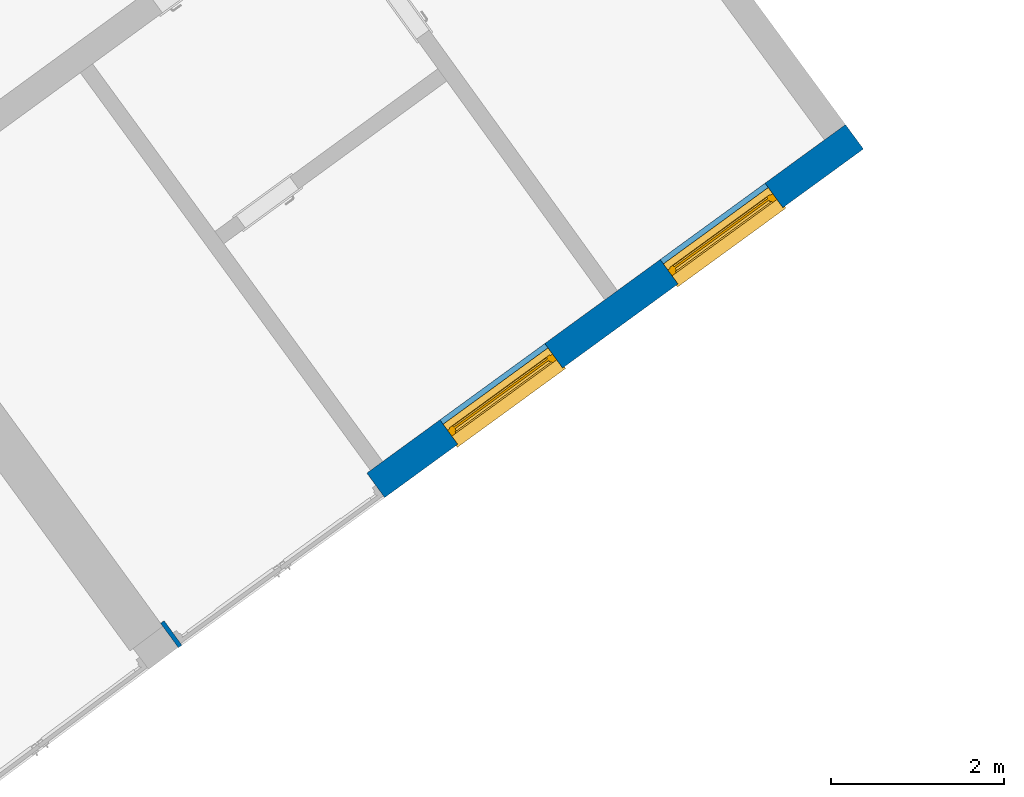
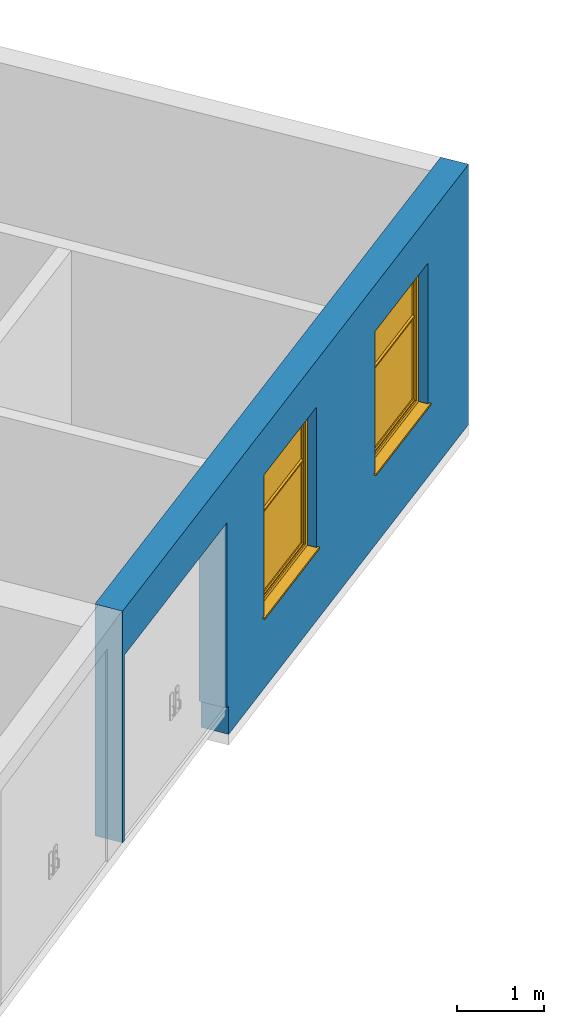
"""IFC2X3 building model written with IfcOpenShell, lengths in millimetres."""

import ifcopenshell
import ifcopenshell.guid

model = None  # the IFC model being written
_history = None  # IfcOwnerHistory: only IFC2X3 demands one
_inside = {}  # id of a spatial element -> (the spatial element, [elements in it])
_under = {}  # id of a project, library or spatial element -> (it, [spatial elements below it])
_declared = {}  # id of a project -> (the project, [libraries it declares])
_typed = {}  # id of a type object -> (the type object, [elements of that type])
_made_of = {}  # id of a material, layer set ... -> (it, [elements and type objects made of it])


def new_model(schema):
    """Start an empty IFC model of exactly this schema.

    Asked for "IFC4X3", IfcOpenShell would pick the latest addendum, in which some entities
    have other attributes; the version numbers below select the first issue.
    IFC2X3 requires an IfcOwnerHistory on every rooted entity: one is made here for all.
    """
    global model, _history
    if schema == "IFC4X3":
        model = ifcopenshell.file(schema_version=(4, 3, 0, 0))
    else:
        model = ifcopenshell.file(schema=schema)
    _inside.clear()
    _under.clear()
    _declared.clear()
    _typed.clear()
    _made_of.clear()
    _history = None
    if model.schema == "IFC2X3":
        org = make("IfcOrganization", Name="unknown")
        user = make(
            "IfcPersonAndOrganization",
            ThePerson=make("IfcPerson", FamilyName="unknown"),
            TheOrganization=org,
        )
        app = make(
            "IfcApplication",
            ApplicationDeveloper=org,
            Version="unknown",
            ApplicationFullName="unknown",
            ApplicationIdentifier="unknown",
        )
        _history = make(
            "IfcOwnerHistory",
            OwningUser=user,
            OwningApplication=app,
            ChangeAction="ADDED",
            CreationDate=0,
        )
    return model


def make(cls, **values):
    """One entity of the class cls with the attributes given. An attribute that is None is left unset."""
    return model.create_entity(
        cls, **{name: value for name, value in values.items() if value is not None}
    )


def entity(cls, *values):
    """Any entity or typed value of the class cls, its attributes in the order of the schema. None: left unset."""
    e = model.create_entity(cls)
    for i, value in enumerate(values):
        if value is not None:
            e[i] = value
    return e


def rooted(cls, **values):
    """An entity with a GlobalId (a new one), such as an element, a storey or a relation."""
    return make(cls, GlobalId=ifcopenshell.guid.new(), OwnerHistory=_history, **values)


def si_unit(unit_type, name, prefix=None):
    """IfcSIUnit, for example si_unit("LENGTHUNIT", "METRE", prefix="MILLI")."""
    return make("IfcSIUnit", UnitType=unit_type, Prefix=prefix, Name=name)


def converted_unit(unit_type, name, factor, base, dimensions=None, offset=None):
    """IfcConversionBasedUnit, such as the inch: factor (a typed value) times the base unit."""
    return make(
        "IfcConversionBasedUnit"
        if offset is None
        else "IfcConversionBasedUnitWithOffset",
        ConversionOffset=offset,
        Dimensions=None
        if dimensions is None
        else entity("IfcDimensionalExponents", *dimensions),
        UnitType=unit_type,
        Name=name,
        ConversionFactor=make(
            "IfcMeasureWithUnit", ValueComponent=factor, UnitComponent=base
        ),
    )


def derived_unit(unit_type, elements):
    """IfcDerivedUnit: a product of units, each with its exponent."""
    return make(
        "IfcDerivedUnit",
        Elements=[
            make("IfcDerivedUnitElement", Unit=unit, Exponent=power)
            for unit, power in elements
        ],
        UnitType=unit_type,
    )


def assignment(units):
    """IfcUnitAssignment: the units of a project."""
    return None if units is None else make("IfcUnitAssignment", Units=units)


def point(xyz):
    """IfcCartesianPoint."""
    return None if xyz is None else make("IfcCartesianPoint", Coordinates=xyz)


def direction(xyz):
    """IfcDirection."""
    return None if xyz is None else make("IfcDirection", DirectionRatios=xyz)


def frame(location, z_axis=None, x_axis=None):
    """IfcAxis2Placement3D, a coordinate frame: its origin and axes. An axis left out is left unset."""
    return make(
        "IfcAxis2Placement3D",
        Location=point(location),
        Axis=direction(z_axis),
        RefDirection=direction(x_axis),
    )


def frame_2d(location, x_axis=None):
    """IfcAxis2Placement2D, a coordinate frame in the plane: its origin and x axis."""
    return make(
        "IfcAxis2Placement2D", Location=point(location), RefDirection=direction(x_axis)
    )


def origin():
    """The frame at (0, 0, 0) with its axes left unset."""
    return frame((0.0, 0.0, 0.0))


def place(relative_to, where):
    """IfcLocalPlacement: puts the frame where relative to a parent placement (None: the world)."""
    return make(
        "IfcLocalPlacement", PlacementRelTo=relative_to, RelativePlacement=where
    )


def context(
    kind, dimensions, precision=None, world=None, true_north=None, identifier=None
):
    """IfcGeometricRepresentationContext, for example the 3D "Model" context."""
    return make(
        "IfcGeometricRepresentationContext",
        ContextIdentifier=identifier,
        ContextType=kind,
        CoordinateSpaceDimension=dimensions,
        Precision=precision,
        WorldCoordinateSystem=world,
        TrueNorth=true_north,
    )


def subcontext(parent, identifier, kind, view, scale=None):
    """IfcGeometricRepresentationSubContext, for example "Body" below "Model"."""
    return make(
        "IfcGeometricRepresentationSubContext",
        ContextIdentifier=identifier,
        ContextType=kind,
        ParentContext=parent,
        TargetScale=scale,
        TargetView=view,
    )


def project(units=None, contexts=None):
    """IfcProject with its units and contexts."""
    return rooted(
        "IfcProject",
        Name="project",
        RepresentationContexts=contexts,
        UnitsInContext=assignment(units),
    )


def spatial(cls, under=None, at=None, **own):
    """A site, building, storey or space (cls), placed at a placement, below another one or the project."""
    s = rooted(cls, ObjectPlacement=at, **own)
    if under is not None:
        _under.setdefault(under.id(), (under, []))[1].append(s)
    return s


def profile(cls, at=None, kind="AREA", **sizes):
    """A parametric profile (cls). Its sizes go by their IFC names, for example OverallWidth=200.0."""
    return make(cls, ProfileType=kind, Position=at, **sizes)


def rectangle(**sizes):
    """IfcRectangleProfileDef."""
    return profile("IfcRectangleProfileDef", **sizes)


def extrude(swept, where, along, depth):
    """IfcExtrudedAreaSolid: the profile swept, set in the frame where, extruded along a direction by depth."""
    return make(
        "IfcExtrudedAreaSolid",
        SweptArea=swept,
        Position=where,
        ExtrudedDirection=direction(along),
        Depth=depth,
    )


def faces_of(points, faces, orient=None, outer=None):
    """IfcFace entities. A face is a list of loops; a loop is a list of indices into points, from 0.

    orient and outer hold one flag for each loop. By default every Orientation is true, the
    first loop of a face is its IfcFaceOuterBound and the others are IfcFaceBound.
    """
    made = []
    for i, loops in enumerate(faces):
        bounds = []
        for j, loop in enumerate(loops):
            is_outer = j == 0 if outer is None else outer[i][j]
            bounds.append(
                make(
                    "IfcFaceOuterBound" if is_outer else "IfcFaceBound",
                    Bound=make("IfcPolyLoop", Polygon=[points[k] for k in loop]),
                    Orientation=True if orient is None else orient[i][j],
                )
            )
        made.append(make("IfcFace", Bounds=bounds))
    return made


def faceted_brep(points, faces, orient=None, outer=None, voids=None):
    """IfcFacetedBrep: a solid bounded by flat faces; with voids (closed shells), ...WithVoids."""
    shared = [point(p) for p in points]
    hull = make("IfcClosedShell", CfsFaces=faces_of(shared, faces, orient, outer))
    if voids is None:
        return make("IfcFacetedBrep", Outer=hull)
    return make(
        "IfcFacetedBrepWithVoids",
        Outer=hull,
        Voids=[
            make(cls, CfsFaces=faces_of(shared, fs, o, b)) for cls, fs, o, b in voids
        ],
    )


def shape(context_of_items, identifier, shape_type, items):
    """IfcShapeRepresentation: the items that make up one representation, for example the "Body"."""
    return make(
        "IfcShapeRepresentation",
        ContextOfItems=context_of_items,
        RepresentationIdentifier=identifier,
        RepresentationType=shape_type,
        Items=items,
    )


def source(mapping_origin, context_of_items, identifier, shape_type, items):
    """IfcRepresentationMap: a shape defined once, which mapped items show again and again."""
    return make(
        "IfcRepresentationMap",
        MappingOrigin=mapping_origin,
        MappedRepresentation=shape(context_of_items, identifier, shape_type, items),
    )


def transform(
    local_origin,
    x_axis=None,
    y_axis=None,
    z_axis=None,
    scale=None,
    scale2=None,
    scale3=None,
    uniform=True,
):
    """IfcCartesianTransformationOperator3D, or its non-uniform kind. x_axis, y_axis, z_axis: its Axis1, 2, 3."""
    if uniform:
        return make(
            "IfcCartesianTransformationOperator3D",
            Axis1=direction(x_axis),
            Axis2=direction(y_axis),
            LocalOrigin=point(local_origin),
            Scale=scale,
            Axis3=direction(z_axis),
        )
    return make(
        "IfcCartesianTransformationOperator3DnonUniform",
        Axis1=direction(x_axis),
        Axis2=direction(y_axis),
        LocalOrigin=point(local_origin),
        Scale=scale,
        Axis3=direction(z_axis),
        Scale2=scale2,
        Scale3=scale3,
    )


def mapped(mapping_source, mapping_target):
    """IfcMappedItem: shows the shape of a source again, moved by a transform."""
    return make(
        "IfcMappedItem", MappingSource=mapping_source, MappingTarget=mapping_target
    )


def material(Name=None, Category=None):
    """IfcMaterial."""
    return make("IfcMaterial", Name=Name, Category=Category)


def material_list(materials):
    """IfcMaterialList."""
    return make("IfcMaterialList", Materials=materials)


def layer(
    of_material, thickness, ventilated=None, Name=None, Category=None, Priority=None
):
    """IfcMaterialLayer: one layer of a wall or slab, of a material (None: an air gap)."""
    return make(
        "IfcMaterialLayer",
        Material=of_material,
        LayerThickness=thickness,
        IsVentilated=ventilated,
        Name=Name,
        Category=Category,
        Priority=Priority,
    )


def layer_set(layers, Name=None):
    """IfcMaterialLayerSet."""
    return make("IfcMaterialLayerSet", MaterialLayers=layers, LayerSetName=Name)


def made_of(thing, what):
    """Note that an element or type object is made of a material, layer set ...; save() writes the relation."""
    if what is not None:
        _made_of.setdefault(what.id(), (what, []))[1].append(thing)
    return thing


def type_object(cls, material=None, **own):
    """A type object (cls), such as IfcWallType, which elements share."""
    return made_of(rooted(cls, **own), material)


def type_shapes(of_type, sources):
    """Give a type object the sources (RepresentationMaps) that its elements show as mapped items."""
    of_type.RepresentationMaps = sources


def element(
    cls,
    number,
    at=None,
    inside=None,
    cuts=None,
    type_object=None,
    material=None,
    context=None,
    identifier="Body",
    shape_type=None,
    held_by="IfcProductDefinitionShape",
    body=None,
    shapes=None,
    **own,
):
    """One element of the class cls, such as IfcWall. Its Tag is "e" and its number.

    at: its placement. inside: the storey or other place that contains it. cuts: it is an
    opening in that element (IfcRelVoidsElement). A single representation is given by context,
    identifier, shape_type and body (its items); several are given by shapes. held_by: the class
    of the entity that holds the representations. save() writes the other relations.
    """
    e = rooted(cls, Tag="e%d" % number, ObjectPlacement=at, **own)
    if body is not None:
        shapes = [shape(context, identifier, shape_type, body)]
    if shapes is not None:
        e.Representation = make(held_by, Representations=shapes)
    if inside is not None:
        _inside.setdefault(inside.id(), (inside, []))[1].append(e)
    if cuts is not None:
        rooted(
            "IfcRelVoidsElement", RelatingBuildingElement=cuts, RelatedOpeningElement=e
        )
    if type_object is not None:
        _typed.setdefault(type_object.id(), (type_object, []))[1].append(e)
    return made_of(e, material)


def fill(opening, filler):
    """IfcRelFillsElement: the door or window that sits in an opening."""
    return rooted(
        "IfcRelFillsElement",
        RelatingOpeningElement=opening,
        RelatedBuildingElement=filler,
    )


def aggregate(whole, parts):
    """IfcRelAggregates: a whole, such as a stair, and the parts it consists of."""
    return rooted("IfcRelAggregates", RelatingObject=whole, RelatedObjects=parts)


def save(model, path):
    """Write the relations noted so far, then the file.

    IfcRelAggregates (storeys below a building ...), IfcRelContainedInSpatialStructure (elements
    in a storey), IfcRelDefinesByType, IfcRelAssociatesMaterial and IfcRelDeclares: one each for
    every whole, place, type object, material and project.
    """
    for whole, parts in _under.values():
        aggregate(whole, parts)
    for where, things in _inside.values():
        rooted(
            "IfcRelContainedInSpatialStructure",
            RelatedElements=things,
            RelatingStructure=where,
        )
    for kind, things in _typed.values():
        rooted("IfcRelDefinesByType", RelatedObjects=things, RelatingType=kind)
    for what, things in _made_of.values():
        rooted("IfcRelAssociatesMaterial", RelatedObjects=things, RelatingMaterial=what)
    for by, libraries in _declared.values():
        rooted("IfcRelDeclares", RelatingContext=by, RelatedDefinitions=libraries)
    model.write(path)


model = new_model("IFC2X3")

# Units and contexts
model_context = context("Model", 3, precision=0.01, world=origin(), true_north=direction((6.123031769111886e-17, 1.0)))
body_context = subcontext(model_context, "Body", "Model", "MODEL_VIEW")
ifc_project = project(units=[si_unit("LENGTHUNIT", "METRE", prefix="MILLI"), si_unit("AREAUNIT", "SQUARE_METRE"), si_unit("VOLUMEUNIT", "CUBIC_METRE"), converted_unit("PLANEANGLEUNIT", "DEGREE", entity("IfcRatioMeasure", 0.017453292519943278), si_unit("PLANEANGLEUNIT", "RADIAN"), dimensions=[0, 0, 0, 0, 0, 0, 0]), si_unit("MASSUNIT", "GRAM", prefix="KILO"), derived_unit("MASSDENSITYUNIT", [(si_unit("MASSUNIT", "GRAM", prefix="KILO"), 1), (si_unit("LENGTHUNIT", "METRE"), -3)]), derived_unit("MOMENTOFINERTIAUNIT", [(si_unit("LENGTHUNIT", "METRE"), 4)]), si_unit("TIMEUNIT", "SECOND"), si_unit("FREQUENCYUNIT", "HERTZ"), si_unit("THERMODYNAMICTEMPERATUREUNIT", "DEGREE_CELSIUS"), derived_unit("THERMALTRANSMITTANCEUNIT", [(si_unit("MASSUNIT", "GRAM", prefix="KILO"), 1), (si_unit("THERMODYNAMICTEMPERATUREUNIT", "KELVIN"), -1), (si_unit("TIMEUNIT", "SECOND"), -3)]), derived_unit("THERMALCONDUCTANCEUNIT", [(si_unit("MASSUNIT", "GRAM", prefix="KILO"), 1), (si_unit("LENGTHUNIT", "METRE"), 1), (si_unit("THERMODYNAMICTEMPERATUREUNIT", "KELVIN"), -1), (si_unit("TIMEUNIT", "SECOND"), -3)]), derived_unit("VOLUMETRICFLOWRATEUNIT", [(si_unit("LENGTHUNIT", "METRE"), 3), (si_unit("TIMEUNIT", "SECOND"), -1)]), derived_unit("MASSFLOWRATEUNIT", [(si_unit("MASSUNIT", "GRAM", prefix="KILO"), 1), (si_unit("TIMEUNIT", "SECOND"), -1)]), derived_unit("ROTATIONALFREQUENCYUNIT", [(si_unit("TIMEUNIT", "SECOND"), -1)]), si_unit("ELECTRICCURRENTUNIT", "AMPERE"), si_unit("ELECTRICVOLTAGEUNIT", "VOLT"), si_unit("POWERUNIT", "WATT"), converted_unit("FORCEUNIT", "KIP", entity("IfcRatioMeasure", 2.088543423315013e-05), si_unit("FORCEUNIT", "NEWTON"), dimensions=[1, 1, -2, 0, 0, 0, 0]), si_unit("ILLUMINANCEUNIT", "LUX"), si_unit("LUMINOUSFLUXUNIT", "LUMEN"), si_unit("LUMINOUSINTENSITYUNIT", "CANDELA"), derived_unit("USERDEFINED", [(si_unit("MASSUNIT", "GRAM", prefix="KILO"), -1), (si_unit("LENGTHUNIT", "METRE"), -2), (si_unit("TIMEUNIT", "SECOND"), 3), (si_unit("LUMINOUSFLUXUNIT", "LUMEN"), 1)]), derived_unit("USERDEFINED", [(si_unit("MASSUNIT", "GRAM", prefix="KILO"), 1), (si_unit("LENGTHUNIT", "METRE"), 3), (si_unit("TIMEUNIT", "SECOND"), -3), (si_unit("ELECTRICCURRENTUNIT", "AMPERE"), -2)]), derived_unit("USERDEFINED", [(si_unit("LENGTHUNIT", "METRE"), 2), (si_unit("TIMEUNIT", "SECOND"), -2)]), derived_unit("SOUNDPOWERUNIT", [(si_unit("MASSUNIT", "GRAM", prefix="KILO"), 1), (si_unit("LENGTHUNIT", "METRE"), 2), (si_unit("TIMEUNIT", "SECOND"), -3)]), derived_unit("SOUNDPRESSUREUNIT", [(si_unit("MASSUNIT", "GRAM", prefix="KILO"), 1), (si_unit("LENGTHUNIT", "METRE"), -1), (si_unit("TIMEUNIT", "SECOND"), -2)]), derived_unit("LINEARVELOCITYUNIT", [(si_unit("LENGTHUNIT", "METRE"), 1), (si_unit("TIMEUNIT", "SECOND"), -1)]), si_unit("PRESSUREUNIT", "PASCAL"), derived_unit("USERDEFINED", [(si_unit("LENGTHUNIT", "METRE"), -2), (si_unit("MASSUNIT", "GRAM", prefix="KILO"), 1), (si_unit("TIMEUNIT", "SECOND"), -2)]), derived_unit("LINEARFORCEUNIT", [(si_unit("MASSUNIT", "GRAM", prefix="KILO"), 1), (si_unit("LENGTHUNIT", "METRE"), 1), (si_unit("TIMEUNIT", "SECOND"), -2), (si_unit("LENGTHUNIT", "METRE"), -1)]), derived_unit("PLANARFORCEUNIT", [(si_unit("MASSUNIT", "GRAM", prefix="KILO"), 1), (si_unit("LENGTHUNIT", "METRE"), 1), (si_unit("TIMEUNIT", "SECOND"), -2), (si_unit("LENGTHUNIT", "METRE"), -2)]), derived_unit("SPECIFICHEATCAPACITYUNIT", [(si_unit("LENGTHUNIT", "METRE"), 2), (si_unit("TIMEUNIT", "SECOND"), -2), (si_unit("THERMODYNAMICTEMPERATUREUNIT", "KELVIN"), -1)]), derived_unit("VAPORPERMEABILITYUNIT", [(si_unit("TIMEUNIT", "SECOND"), 1), (si_unit("LENGTHUNIT", "METRE"), -1)]), derived_unit("DYNAMICVISCOSITYUNIT", [(si_unit("MASSUNIT", "GRAM", prefix="KILO"), 1), (si_unit("LENGTHUNIT", "METRE"), -1), (si_unit("TIMEUNIT", "SECOND"), -1)]), derived_unit("THERMALEXPANSIONCOEFFICIENTUNIT", [(si_unit("THERMODYNAMICTEMPERATUREUNIT", "KELVIN"), -1)])], contexts=[model_context])

# Site, building, storey
site_placement = place(None, frame((0.0, 0.0, 0.0), z_axis=(0.0, 0.0, 1.0), x_axis=(0.8191520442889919, 0.5735764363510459, 0.0)))
site = spatial("IfcSite", under=ifc_project, at=site_placement, Name="Default", CompositionType="ELEMENT")
building_placement = place(site_placement, origin())
building = spatial("IfcBuilding", under=site, at=building_placement, CompositionType="ELEMENT")
storey_1_placement = place(building_placement, origin())
storey_1 = spatial("IfcBuildingStorey", under=building, at=storey_1_placement, Name="1.EG +0.00", CompositionType="ELEMENT", Elevation=-4.331468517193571e-12)

# Wall, openings
ifc_material_1 = material(Name="Analytical Wall Surface_CJC")
ifc_layer = layer(ifc_material_1, 350.0)
ifc_layer_set = layer_set([ifc_layer], Name="Basic Wall:Wand_Aussen_35")
wall_type = type_object("IfcWallType", Name="Basic Wall:Wand_Aussen_35", PredefinedType="STANDARD", material=ifc_layer_set)
wall_placement = place(storey_1_placement, frame((-190658.06050087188, 158413.85322952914, -1150.0), z_axis=(0.0, 0.0, 1.0), x_axis=(0.9998302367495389, 0.018425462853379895, 0.0)))
wall = element("IfcWall", 1, at=wall_placement, inside=storey_1, type_object=wall_type, Name="Basic Wall:Wand_Aussen_35", ObjectType="Basic Wall:Wand_Aussen_35", context=body_context, shape_type="Brep", body=[
    faceted_brep([(3002.5408891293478, -175.0, 0.0), (9797.138554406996, -175.0, 0.0), (9797.138554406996, -175.0, 3650.0), (0.042539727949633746, -175.0, 3650.0), (0.042539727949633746, -175.0, 400.0), (49.99564457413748, -175.0, 400.0), (49.995644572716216, -175.0, 3000.0), (2949.9956445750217, -175.0, 3000.0), (2949.995644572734, -175.0, 400.0), (3002.5408891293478, -175.0, 400.0), (7145.436648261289, -175.0, 1000.0), (7145.436648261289, -175.0, 3000.0), (8645.436648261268, -175.0, 3000.0), (8645.436648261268, -175.0, 1000.0), (3995.436648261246, -175.0, 1000.0), (3995.436648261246, -175.0, 3000.0), (5495.43664826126, -175.0, 3000.0), (5495.43664826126, -175.0, 1000.0), (9795.440547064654, 175.0, 0.0), (9495.43701660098, 175.0, 0.0), (6533.838700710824, 175.0, 0.0), (6353.837538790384, 175.0, 0.0), (3177.1619971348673, 175.0, 0.0), (3002.161894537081, 175.0, 0.0), (3002.161894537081, 175.0, 400.0), (2949.9956445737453, 175.0, 400.0), (2949.9956445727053, 175.0, 3000.0), (49.995644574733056, 175.0, 3000.0), (49.99564457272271, 175.0, 400.0), (0.0, 175.0, 400.0), (0.0, 175.0, 3650.0), (3002.161894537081, 175.0, 3650.0), (3177.1619971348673, 175.0, 3650.0), (6353.837538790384, 175.0, 3650.0), (6533.838700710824, 175.0, 3650.0), (9495.43701660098, 175.0, 3650.0), (9795.440547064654, 175.0, 3650.0), (7145.436648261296, 175.0, 3000.0), (7145.436648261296, 175.0, 1000.0), (8645.436648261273, 175.0, 1000.0), (8645.436648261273, 175.0, 3000.0), (3995.436648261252, 175.0, 3000.0), (3995.436648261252, 175.0, 1000.0), (5495.436648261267, 175.0, 1000.0), (5495.436648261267, 175.0, 3000.0), (0.04179988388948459, -168.91285636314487, 3650.0), (0.005334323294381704, 131.11130465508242, 3650.0), (0.005334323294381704, 131.11130465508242, 400.0), (0.04179988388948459, -168.91285636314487, 400.0)], [[[0, 1, 2, 3, 4, 5, 6, 7, 8, 9], [10, 11, 12, 13], [14, 15, 16, 17]], [[18, 19, 20, 21, 22, 23, 24, 25, 26, 27, 28, 29, 30, 31, 32, 33, 34, 35, 36], [37, 38, 39, 40], [41, 42, 43, 44]], [[2, 1, 18, 36]], [[4, 3, 45, 46, 30, 29, 47, 48]], [[1, 0, 23, 22, 21, 20, 19, 18]], [[3, 2, 36, 35, 34, 33, 32, 31, 30, 46, 45]], [[5, 4, 48, 47, 29, 28]], [[0, 9, 24, 23]], [[38, 37, 11, 10]], [[39, 38, 10, 13]], [[40, 39, 13, 12]], [[37, 40, 12, 11]], [[42, 41, 15, 14]], [[43, 42, 14, 17]], [[44, 43, 17, 16]], [[41, 44, 16, 15]], [[6, 5, 28, 27]], [[7, 6, 27, 26]], [[8, 7, 26, 25]], [[24, 9, 8, 25]]]),
])
opening_1_placement = place(wall_placement, frame((7145.436648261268, -175.0, 1000.0)))
opening_1 = element("IfcOpeningElement", 2, at=opening_1_placement, cuts=wall, Name="Windows_Sgl_Horz_Bars:200x150:1", ObjectType="Opening", context=body_context, shape_type="SweptSolid", body=[
    extrude(rectangle(XDim=2000.000000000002, YDim=1500.0, at=frame_2d((1000.0000000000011, 750.0000000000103), x_axis=(-1.0, 0.0))), frame((0.0, 0.0, 0.0), z_axis=(0.0, 1.0, 0.0), x_axis=(0.0, 0.0, 1.0)), (0.0, 0.0, 1.0), 349.99999999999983),
])
opening_2_placement = place(wall_placement, frame((3995.4366482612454, -175.0, 1000.0)))
opening_2 = element("IfcOpeningElement", 3, at=opening_2_placement, cuts=wall, Name="Windows_Sgl_Horz_Bars:200x150:1", ObjectType="Opening", context=body_context, shape_type="SweptSolid", body=[
    extrude(rectangle(XDim=2000.000000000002, YDim=1500.0000000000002, at=frame_2d((1000.0000000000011, 750.0000000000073), x_axis=(-1.0, 0.0))), frame((0.0, 0.0, 0.0), z_axis=(0.0, 1.0, 0.0), x_axis=(0.0, 0.0, 1.0)), (0.0, 0.0, 1.0), 349.99999999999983),
])
opening_3_placement = place(wall_placement, frame((2949.99564457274, 175.0, 400.0)))
element("IfcOpeningElement", 4, at=opening_3_placement, cuts=wall, Name="M_Door-Exterior-Double:280x250:1", ObjectType="Opening", context=body_context, shape_type="SweptSolid", body=[
    extrude(rectangle(XDim=2600.0, YDim=2899.999999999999, at=frame_2d((1300.0, 1449.9999999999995), x_axis=(1.0, 0.0))), frame((0.0, 0.0, 0.0), z_axis=(0.0, -1.0, 0.0), x_axis=(0.0, 0.0, 1.0)), (0.0, 0.0, 1.0), 349.99999999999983),
])

# Storey
storey_2_placement = place(building_placement, frame((0.0, 0.0, -1150.0)))
storey_2 = spatial("IfcBuildingStorey", under=building, at=storey_2_placement, Name="6.EG KH -1.15", CompositionType="ELEMENT", Elevation=-1150.0000000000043)

# Window
ifc_material_2 = material(Name="Window Frame")
ifc_material_3 = material(Name="Glass")
ifc_material_list = material_list([ifc_material_2, ifc_material_3])
window_style = type_object("IfcWindowStyle", Name="Windows_Sgl_Horz_Bars:200x150", ConstructionType="NOTDEFINED", OperationType="SINGLE_PANEL", ParameterTakesPrecedence=False, Sizeable=False, material=ifc_material_list)
shared_shape = source(origin(), body_context, "Body", "Brep", [
    faceted_brep([(-25.0, -25.0, 0.0), (-25.0, 0.0, 0.0), (0.0, 0.0, 0.0), (0.0, 117.0, 0.0), (1500.0, 117.0, 0.0), (1500.0, 0.0, 0.0), (1525.0, 0.0, 0.0), (1525.0, -25.0, 0.0), (-25.0, -25.0, 25.0), (1525.0, -25.0, 25.0), (1525.0, 0.0, 25.0), (1500.0, 0.0, 25.0), (1500.0, 117.0, 25.0), (0.0, 117.0, 25.0), (0.0, 0.0, 25.0), (-25.0, 0.0, 25.0)], [[[0, 1, 2, 3, 4, 5, 6, 7]], [[8, 9, 10, 11, 12, 13, 14, 15]], [[1, 0, 8, 15]], [[2, 1, 15, 14]], [[3, 2, 14, 13]], [[4, 3, 13, 12]], [[5, 4, 12, 11]], [[6, 5, 11, 10]], [[7, 6, 10, 9]], [[0, 7, 9, 8]]]),
    faceted_brep([(0.0, 117.0, 0.0), (1500.0, 117.0, 0.0), (1500.0, 117.0, 2000.0), (0.0, 117.0, 2000.0), (60.0, 117.0, 1940.0), (1440.0, 117.0, 1940.0), (1440.0, 117.0, 75.0), (60.0, 117.0, 75.0), (0.0, 200.0, 2000.0), (0.0, 200.0, 51.0), (0.0, 215.0, 49.68767004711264), (0.0, 215.0, 44.74496761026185), (0.0, 287.5000000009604, 33.80888466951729), (0.0, 287.5000000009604, 0.0), (1500.0, 200.0, 2000.0), (1500.0, 200.0, 51.0), (40.0, 200.0, 1960.0), (40.0, 200.0, 63.0), (1460.0, 200.0, 63.0), (1460.0, 200.0, 1960.0), (40.0, 135.0, 1960.0), (40.0, 135.0, 63.0), (60.0, 135.0, 1940.0), (60.0, 135.0, 75.0), (1440.0, 135.0, 75.0), (1440.0, 135.0, 1940.0), (1460.0, 135.0, 1960.0), (1460.0, 135.0, 63.0), (1500.0, 287.5000000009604, 0.0), (1500.0, 287.5000000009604, 33.80888466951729), (1500.0, 215.0, 44.74496761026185), (1500.0, 215.0, 49.68767004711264)], [[[0, 1, 2, 3], [4, 5, 6, 7]], [[0, 3, 8, 9, 10, 11, 12, 13]], [[9, 8, 14, 15], [16, 17, 18, 19]], [[17, 16, 20, 21]], [[22, 23, 24, 25], [20, 26, 27, 21]], [[22, 4, 7, 23]], [[3, 2, 14, 8]], [[16, 19, 26, 20]], [[5, 4, 22, 25]], [[15, 14, 2, 1, 28, 29, 30, 31]], [[19, 18, 27, 26]], [[5, 25, 24, 6]], [[28, 1, 0, 13]], [[29, 28, 13, 12]], [[30, 29, 12, 11]], [[31, 30, 11, 10]], [[15, 31, 10, 9]], [[21, 27, 18, 17]], [[7, 6, 24, 23]]], outer=[[True, False], [True], [True, False], [True], [False, True], [True], [True], [True], [True], [True], [True], [True], [True], [True], [True], [True], [True], [True], [True]]),
    faceted_brep([(1430.1480377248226, 164.0, 93.0), (1430.1480377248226, 164.0, 1254.8307627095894), (70.0, 164.0, 1254.8307627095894), (70.0, 164.0, 93.0), (1430.1480377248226, 188.0, 93.0), (1430.1480377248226, 188.0, 1254.8307627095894), (70.0, 188.0, 1254.8307627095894), (70.0, 188.0, 93.0)], [[[0, 1, 2, 3]], [[1, 0, 4, 5]], [[2, 1, 5, 6]], [[3, 2, 6, 7]], [[0, 3, 7, 4]], [[4, 7, 6, 5]]]),
    faceted_brep([(70.0, 188.0, 1265.169237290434), (70.0, 188.0, 1930.0), (1430.1480377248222, 188.0, 1930.0), (1430.1480377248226, 188.0, 1265.169237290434), (1430.1480377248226, 164.0, 1265.169237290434), (70.0, 164.0, 1265.169237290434), (1430.148037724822, 164.0, 1930.0), (70.0, 164.0, 1930.0)], [[[0, 1, 2, 3]], [[4, 5, 0, 3]], [[6, 4, 3, 2]], [[7, 6, 2, 1]], [[5, 7, 1, 0]], [[5, 4, 6, 7]]]),
    faceted_brep([(1430.1480377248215, 211.54700538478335, 1265.1692372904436), (1430.1480377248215, 205.87121188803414, 1275.0), (1430.1480377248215, 188.0, 1275.0), (1430.1480377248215, 188.0, 1268.0), (1430.1480377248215, 164.0, 1268.0), (1430.1480377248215, 164.0, 1275.0), (1430.1480377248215, 149.4928998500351, 1275.0), (1430.1480377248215, 135.0, 1269.8519622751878), (1430.1480377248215, 135.0, 1250.1480377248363), (1430.1480377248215, 149.4928998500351, 1245.0), (1430.1480377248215, 164.0, 1245.0), (1430.1480377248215, 164.0, 1252.0), (1430.1480377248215, 188.0, 1252.0), (1430.1480377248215, 188.0, 1245.0), (1430.1480377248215, 205.87121188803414, 1245.0), (1430.1480377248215, 211.54700538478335, 1254.8307627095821), (69.85196227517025, 211.5470053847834, 1265.1692372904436), (69.85196227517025, 211.5470053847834, 1254.8307627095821), (69.85196227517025, 205.8712118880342, 1245.0), (69.85196227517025, 188.0, 1245.0), (69.85196227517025, 188.0, 1252.0), (69.85196227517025, 164.0, 1252.0), (69.85196227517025, 164.0, 1245.0), (69.85196227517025, 149.49289985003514, 1245.0), (69.85196227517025, 135.0, 1250.1480377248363), (69.85196227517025, 135.0, 1269.8519622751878), (69.85196227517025, 149.49289985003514, 1275.0), (69.85196227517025, 164.0, 1275.0), (69.85196227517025, 164.0, 1268.0), (69.85196227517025, 188.0, 1268.0), (69.85196227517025, 188.0, 1275.0), (69.85196227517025, 205.8712118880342, 1275.0)], [[[0, 1, 2, 3, 4, 5, 6, 7, 8, 9, 10, 11, 12, 13, 14, 15]], [[16, 17, 18, 19, 20, 21, 22, 23, 24, 25, 26, 27, 28, 29, 30, 31]], [[1, 0, 16, 31]], [[2, 1, 31, 30]], [[3, 2, 30, 29]], [[4, 3, 29, 28]], [[5, 4, 28, 27]], [[6, 5, 27, 26]], [[7, 6, 26, 25]], [[8, 7, 25, 24]], [[9, 8, 24, 23]], [[10, 9, 23, 22]], [[11, 10, 22, 21]], [[12, 11, 21, 20]], [[13, 12, 20, 19]], [[14, 13, 19, 18]], [[15, 14, 18, 17]], [[0, 15, 17, 16]]]),
    faceted_brep([(30.0, 200.0, 1970.0), (30.0, 205.7735026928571, 1970.0), (30.0, 205.7735026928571, 53.0), (30.0, 200.0, 53.0), (40.0, 135.0, 1960.0), (40.0, 200.0, 1960.0), (40.0, 200.0, 63.0), (40.0, 135.0, 63.0), (80.0, 149.49289985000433, 1920.0), (69.85196227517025, 135.0, 1930.148037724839), (69.85196227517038, 135.0, 92.85196227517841), (80.0, 149.4928998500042, 103.0), (80.0, 164.0, 1920.0), (80.0, 164.0, 103.0), (70.0, 188.0, 1930.0), (70.0, 164.0, 1930.0), (70.0, 164.0, 93.0), (70.0, 188.0, 93.0), (80.0, 205.77350269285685, 1920.0), (80.0, 188.0, 1920.0), (80.0, 188.0, 103.0), (80.0, 205.77350269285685, 103.0), (70.0, 211.5470053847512, 1930.0), (70.0, 211.54700538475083, 93.0), (40.784609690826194, 211.54700538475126, 1959.2153903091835), (40.784609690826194, 211.5470053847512, 63.784609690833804), (1470.0, 205.77350269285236, 53.0), (1470.0, 200.0, 53.0), (1460.0, 200.0, 63.0), (1460.0, 135.0, 63.0), (1430.148037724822, 135.0, 92.85196227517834), (1420.0, 149.4928998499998, 103.0), (1420.0, 164.0, 103.0), (1430.0, 164.0, 93.0), (1430.0, 188.0, 93.0), (1420.0, 188.0, 103.0), (1420.0, 205.77350269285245, 103.0), (1430.0, 211.54700538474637, 93.0), (1459.2153903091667, 211.5470053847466, 63.78460969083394), (1470.0, 205.77350269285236, 1970.0), (1470.0, 200.0, 1970.0), (1460.0, 200.0, 1960.0), (1460.0, 135.0, 1960.0), (1430.148037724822, 135.0, 1930.148037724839), (1420.0, 149.4928998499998, 1920.0), (1420.0, 164.0, 1920.0), (1430.0, 164.0, 1930.0), (1430.0, 188.0, 1930.0), (1420.0, 188.0, 1920.0), (1420.0, 205.77350269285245, 1920.0), (1430.0, 211.54700538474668, 1930.0), (1459.2153903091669, 211.54700538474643, 1959.2153903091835)], [[[0, 1, 2, 3]], [[4, 5, 6, 7]], [[8, 9, 10, 11]], [[12, 8, 11, 13]], [[14, 15, 16, 17]], [[18, 19, 20, 21]], [[22, 18, 21, 23]], [[1, 24, 25, 2]], [[3, 2, 26, 27]], [[7, 6, 28, 29]], [[11, 10, 30, 31]], [[13, 11, 31, 32]], [[17, 16, 33, 34]], [[21, 20, 35, 36]], [[23, 21, 36, 37]], [[2, 25, 38, 26]], [[27, 26, 39, 40]], [[29, 28, 41, 42]], [[31, 30, 43, 44]], [[32, 31, 44, 45]], [[34, 33, 46, 47]], [[36, 35, 48, 49]], [[37, 36, 49, 50]], [[26, 38, 51, 39]], [[40, 39, 1, 0]], [[3, 27, 40, 0], [5, 41, 28, 6]], [[42, 41, 5, 4]], [[7, 29, 42, 4], [9, 43, 30, 10]], [[44, 43, 9, 8]], [[45, 44, 8, 12]], [[13, 32, 45, 12], [15, 46, 33, 16]], [[47, 46, 15, 14]], [[17, 34, 47, 14], [19, 48, 35, 20]], [[49, 48, 19, 18]], [[50, 49, 18, 22]], [[23, 37, 50, 22], [24, 51, 38, 25]], [[39, 51, 24, 1]]], outer=[[True], [True], [True], [True], [True], [True], [True], [True], [True], [True], [True], [True], [True], [True], [True], [True], [True], [True], [True], [True], [True], [True], [True], [True], [True], [True, False], [True], [True, False], [True], [True], [False, True], [True], [True, False], [True], [True], [False, True], [True]]),
])
type_shapes(window_style, [shared_shape])
window_1_placement = place(opening_1_placement, origin())
window_1 = element("IfcWindow", 5, at=window_1_placement, inside=storey_2, type_object=window_style, material=ifc_material_list, Name="Windows_Sgl_Horz_Bars:200x150", ObjectType="Windows_Sgl_Horz_Bars:200x150", OverallHeight=2000.0000000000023, OverallWidth=1499.999999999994, context=body_context, shape_type="MappedRepresentation", body=[
    mapped(shared_shape, transform((0.0, 0.0, 0.0), scale=1.0)),
])

fill(opening_1, window_1)

window_2_placement = place(opening_2_placement, origin())
window_2 = element("IfcWindow", 6, at=window_2_placement, inside=storey_2, type_object=window_style, material=ifc_material_list, Name="Windows_Sgl_Horz_Bars:200x150", ObjectType="Windows_Sgl_Horz_Bars:200x150", OverallHeight=2000.0000000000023, OverallWidth=1500.0000000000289, context=body_context, shape_type="MappedRepresentation", body=[
    mapped(shared_shape, transform((0.0, 0.0, 0.0), scale=1.0)),
])

fill(opening_2, window_2)

save(model, "model.ifc")
